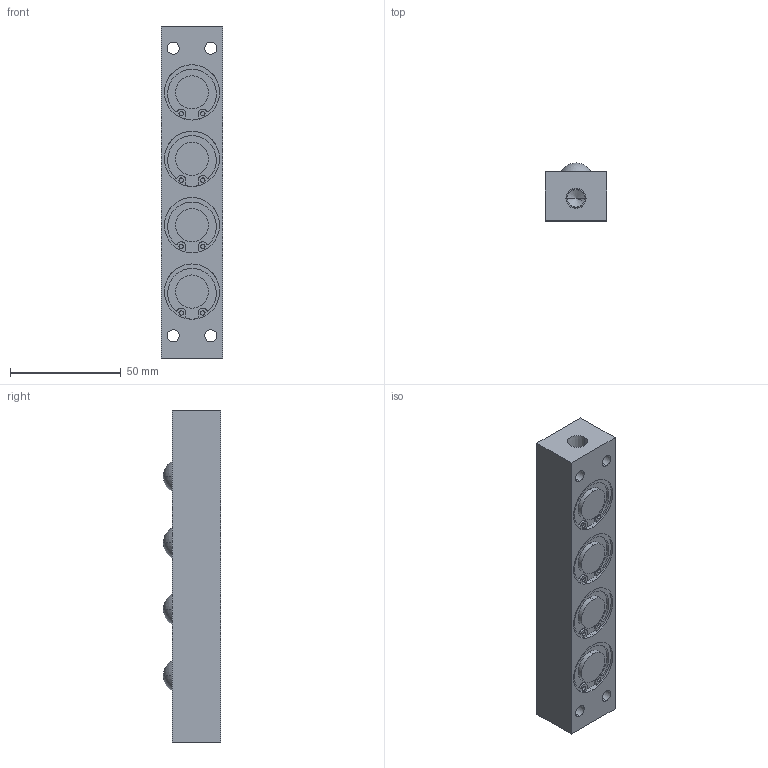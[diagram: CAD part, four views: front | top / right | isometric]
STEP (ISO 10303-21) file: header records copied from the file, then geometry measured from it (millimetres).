
FILE_DESCRIPTION (( 'STEP AP203' ), '1' );
FILE_NAME ('PVL17S-4.STEP', '2015-12-24T06:31:10', ( '' ), ( '' ), 'SwSTEP 2.0', 'SolidWorks 2013', '' );
FILE_SCHEMA (( 'CONFIG_CONTROL_DESIGN' ));
Length unit declared in the file: millimetre
Products named in the file (1): PVL17S-4
Bounding box: 28 x 26 x 150 mm (x, y, z)
Volume: 87817.2 mm3; surface area: 22230.9 mm2
Topology: 1 solids, 1 shells, 157 faces, 368 edges, 245 vertices
Faces by surface type: cylinder 98, plane 47, sphere 8, cone 4
Entity records: 4701 total; most frequent: DIRECTION 906, CARTESIAN_POINT 769, ORIENTED_EDGE 732, AXIS2_PLACEMENT_3D 382, EDGE_CURVE 366, VERTEX_POINT 245, CIRCLE 224, EDGE_LOOP 199
